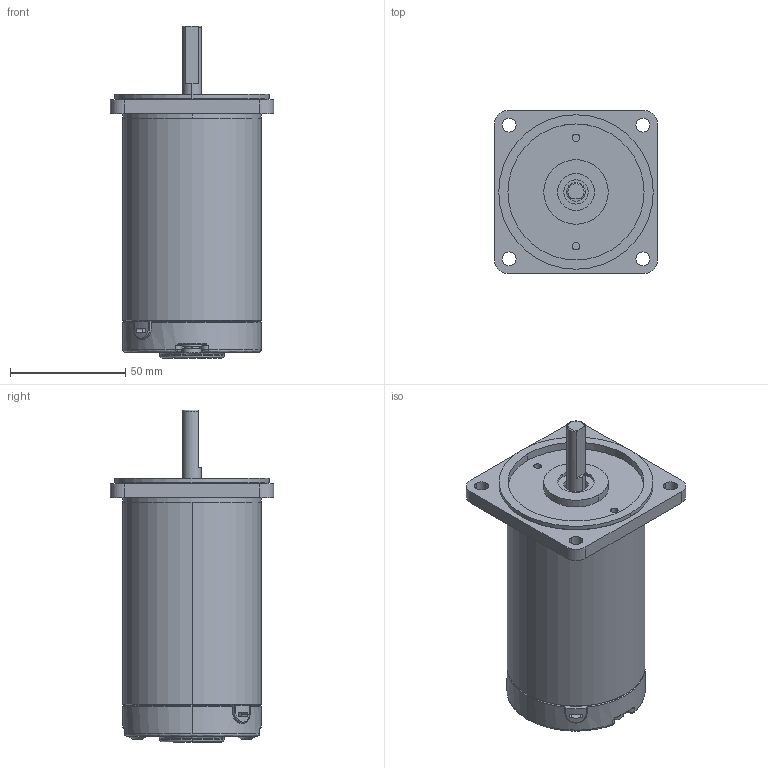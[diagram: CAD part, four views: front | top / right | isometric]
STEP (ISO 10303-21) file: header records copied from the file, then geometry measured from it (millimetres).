
FILE_DESCRIPTION (( 'STEP AP214' ), '1' );
FILE_NAME ('Z3D15W囀离88儂褲嫖萇儂.STEP', '2021-07-29T01:51:34', ( '' ), ( '' ), 'SwSTEP 2.0', 'SolidWorks 2021', '' );
FILE_SCHEMA (( 'AUTOMOTIVE_DESIGN' ));
Length unit declared in the file: millimetre
Products named in the file (9): TANDIAN; z3d25-12gn-30s-019-00001m; LUDING; PENGDIAN; Z3D15W囀离88儂褲嫖萇儂; 蚾饜极32^70 51儂褲囀离; JIKE; 蚾饜极31^70 51儂褲囀离; HOUGAI
Assembly tree (11 placements, depth 3):
  Z3D15W囀离88儂褲嫖萇儂
    蚾饜极31^70 51儂褲囀离
      LUDING
      TANDIAN
      PENGDIAN
    蚾饜极32^70 51儂褲囀离
      LUDING
      TANDIAN
      PENGDIAN
    HOUGAI
    JIKE
    z3d25-12gn-30s-019-00001m
Bounding box: 70.8 x 70.8 x 144 mm (x, y, z)
Volume: 89874.4 mm3; surface area: 59927.3 mm2
Topology: 10 solids, 10 shells, 286 faces, 677 edges, 420 vertices
Faces by surface type: cylinder 113, plane 75, cone 57, bspline 36, torus 5
Entity records: 8214 total; most frequent: CARTESIAN_POINT 2810, DIRECTION 1085, ORIENTED_EDGE 1050, EDGE_CURVE 525, AXIS2_PLACEMENT_3D 447, VERTEX_POINT 331, EDGE_LOOP 260, CIRCLE 242
